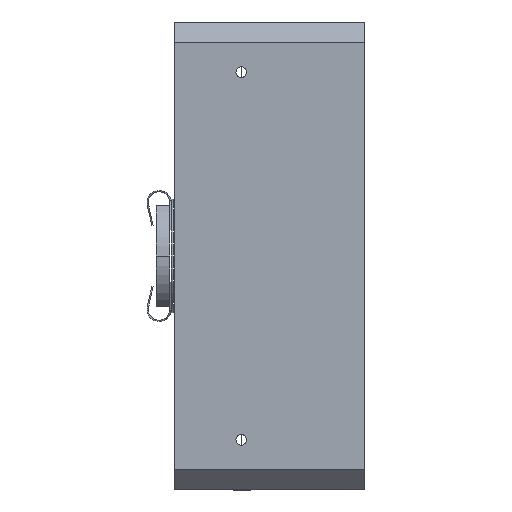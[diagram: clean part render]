
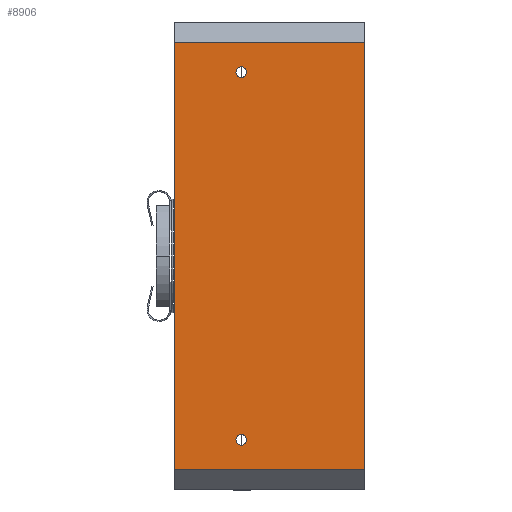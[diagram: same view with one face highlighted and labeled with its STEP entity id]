
A CAD part, left-side view. The second image highlights one B-rep face of the part: STEP entity #8906.
In plain terms, the highlighted planar face has unit normal (-1, 0, 0).
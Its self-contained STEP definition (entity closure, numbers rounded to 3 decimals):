
#280 = ORIENTED_EDGE ( 'NONE', *, *, #4426, .T. ) ;
#379 = VECTOR ( 'NONE', #16237, 1000. ) ;
#660 = EDGE_LOOP ( 'NONE', ( #280, #5542, #7161, #9204 ) ) ;
#866 = VERTEX_POINT ( 'NONE', #10822 ) ;
#903 = DIRECTION ( 'NONE',  ( 0., -1., 0. ) ) ;
#1068 = FACE_OUTER_BOUND ( 'NONE', #660, .T. ) ;
#1212 = VERTEX_POINT ( 'NONE', #9439 ) ;
#1253 = CIRCLE ( 'NONE', #4515, 0.8 ) ;
#2219 = DIRECTION ( 'NONE',  ( -1., 0., 0. ) ) ;
#2302 = EDGE_CURVE ( 'NONE', #6355, #1212, #18791, .T. ) ;
#2644 = VECTOR ( 'NONE', #903, 1000. ) ;
#3377 = EDGE_CURVE ( 'NONE', #3557, #14355, #5664, .T. ) ;
#3557 = VERTEX_POINT ( 'NONE', #9705 ) ;
#4098 = CARTESIAN_POINT ( 'NONE',  ( -35., 18.5, -26.7 ) ) ;
#4204 = CARTESIAN_POINT ( 'NONE',  ( -35., 28.5, 32. ) ) ;
#4210 = DIRECTION ( 'NONE',  ( 0., 0., 1. ) ) ;
#4426 = EDGE_CURVE ( 'NONE', #19089, #3557, #16390, .T. ) ;
#4467 = PLANE ( 'NONE',  #16788 ) ;
#4515 = AXIS2_PLACEMENT_3D ( 'NONE', #16306, #7304, #17824 ) ;
#4553 = VERTEX_POINT ( 'NONE', #16824 ) ;
#5542 = ORIENTED_EDGE ( 'NONE', *, *, #3377, .T. ) ;
#5663 = CARTESIAN_POINT ( 'NONE',  ( -35., 18.5, 27.5 ) ) ;
#5664 = LINE ( 'NONE', #13828, #13637 ) ;
#5784 = DIRECTION ( 'NONE',  ( 0., 0., 1. ) ) ;
#5829 = CIRCLE ( 'NONE', #10684, 0.8 ) ;
#5973 = DIRECTION ( 'NONE',  ( -1., 0., 0. ) ) ;
#6336 = DIRECTION ( 'NONE',  ( 0., 1., 0. ) ) ;
#6355 = VERTEX_POINT ( 'NONE', #9236 ) ;
#6833 = LINE ( 'NONE', #8827, #10817 ) ;
#7161 = ORIENTED_EDGE ( 'NONE', *, *, #10296, .F. ) ;
#7180 = DIRECTION ( 'NONE',  ( 0., 0., 1. ) ) ;
#7304 = DIRECTION ( 'NONE',  ( -1., 0., 0. ) ) ;
#7323 = ORIENTED_EDGE ( 'NONE', *, *, #17444, .F. ) ;
#7629 = DIRECTION ( 'NONE',  ( 1., 0., 0. ) ) ;
#8616 = FACE_BOUND ( 'NONE', #11685, .T. ) ;
#8827 = CARTESIAN_POINT ( 'NONE',  ( -35., 28.5, 35. ) ) ;
#8865 = ORIENTED_EDGE ( 'NONE', *, *, #17388, .F. ) ;
#8906 = ADVANCED_FACE ( 'NONE', ( #16593, #8616, #1068 ), #4467, .F. ) ;
#9204 = ORIENTED_EDGE ( 'NONE', *, *, #12980, .T. ) ;
#9236 = CARTESIAN_POINT ( 'NONE',  ( -35., 18.5, 26.7 ) ) ;
#9439 = CARTESIAN_POINT ( 'NONE',  ( -35., 18.5, 28.3 ) ) ;
#9705 = CARTESIAN_POINT ( 'NONE',  ( -35., 0., 32. ) ) ;
#10239 = CARTESIAN_POINT ( 'NONE',  ( -35., 0., 35. ) ) ;
#10296 = EDGE_CURVE ( 'NONE', #866, #14355, #6833, .T. ) ;
#10684 = AXIS2_PLACEMENT_3D ( 'NONE', #14976, #5973, #16483 ) ;
#10817 = VECTOR ( 'NONE', #4210, 1000. ) ;
#10819 = CARTESIAN_POINT ( 'NONE',  ( -35., 0., -32. ) ) ;
#10822 = CARTESIAN_POINT ( 'NONE',  ( -35., 28.5, -32. ) ) ;
#11113 = LINE ( 'NONE', #18929, #2644 ) ;
#11685 = EDGE_LOOP ( 'NONE', ( #7323, #14608 ) ) ;
#12980 = EDGE_CURVE ( 'NONE', #866, #19089, #11113, .T. ) ;
#13042 = ORIENTED_EDGE ( 'NONE', *, *, #2302, .F. ) ;
#13637 = VECTOR ( 'NONE', #6336, 1000. ) ;
#13828 = CARTESIAN_POINT ( 'NONE',  ( -35., 28.5, 32. ) ) ;
#14063 = AXIS2_PLACEMENT_3D ( 'NONE', #17295, #2219, #5784 ) ;
#14355 = VERTEX_POINT ( 'NONE', #4204 ) ;
#14608 = ORIENTED_EDGE ( 'NONE', *, *, #15814, .F. ) ;
#14976 = CARTESIAN_POINT ( 'NONE',  ( -35., 18.5, -27.5 ) ) ;
#15814 = EDGE_CURVE ( 'NONE', #4553, #16614, #5829, .T. ) ;
#16182 = DIRECTION ( 'NONE',  ( -1., 0., 0. ) ) ;
#16237 = DIRECTION ( 'NONE',  ( 0., 0., 1. ) ) ;
#16248 = EDGE_LOOP ( 'NONE', ( #8865, #13042 ) ) ;
#16306 = CARTESIAN_POINT ( 'NONE',  ( -35., 18.5, -27.5 ) ) ;
#16390 = LINE ( 'NONE', #10239, #379 ) ;
#16483 = DIRECTION ( 'NONE',  ( 0., 0., 1. ) ) ;
#16593 = FACE_BOUND ( 'NONE', #16248, .T. ) ;
#16614 = VERTEX_POINT ( 'NONE', #4098 ) ;
#16624 = CARTESIAN_POINT ( 'NONE',  ( -35., 28.5, 35. ) ) ;
#16788 = AXIS2_PLACEMENT_3D ( 'NONE', #16624, #7629, #18139 ) ;
#16824 = CARTESIAN_POINT ( 'NONE',  ( -35., 18.5, -28.3 ) ) ;
#17295 = CARTESIAN_POINT ( 'NONE',  ( -35., 18.5, 27.5 ) ) ;
#17388 = EDGE_CURVE ( 'NONE', #1212, #6355, #19150, .T. ) ;
#17444 = EDGE_CURVE ( 'NONE', #16614, #4553, #1253, .T. ) ;
#17824 = DIRECTION ( 'NONE',  ( 0., 0., 1. ) ) ;
#18004 = AXIS2_PLACEMENT_3D ( 'NONE', #5663, #16182, #7180 ) ;
#18139 = DIRECTION ( 'NONE',  ( 0., 0., -1. ) ) ;
#18791 = CIRCLE ( 'NONE', #14063, 0.8 ) ;
#18929 = CARTESIAN_POINT ( 'NONE',  ( -35., 28.5, -32. ) ) ;
#19089 = VERTEX_POINT ( 'NONE', #10819 ) ;
#19150 = CIRCLE ( 'NONE', #18004, 0.8 ) ;
